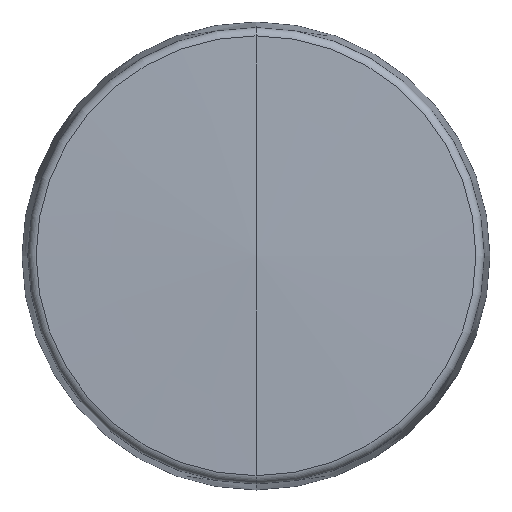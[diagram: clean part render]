
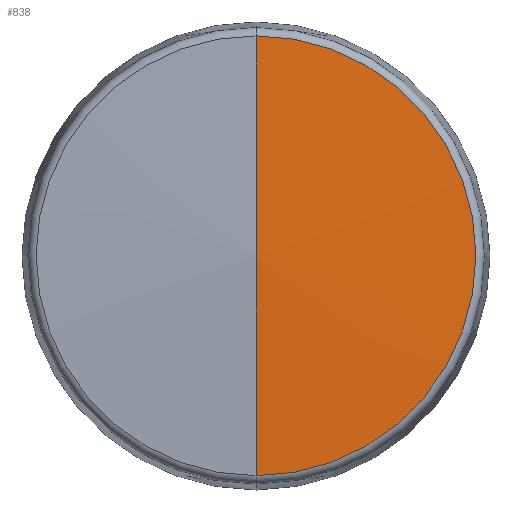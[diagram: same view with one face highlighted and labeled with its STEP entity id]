
A CAD part, top view. The second image highlights one B-rep face of the part: STEP entity #838.
In plain terms, the highlighted conical face has half-angle 88.476 degrees and reference radius 37589.9 mm.
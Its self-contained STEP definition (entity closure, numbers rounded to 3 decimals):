
#57 = CONICAL_SURFACE ( 'NONE', #643, 37589.892, 1.544 ) ;
#143 = CARTESIAN_POINT ( 'NONE',  ( 40., 40., 41.5 ) ) ;
#185 = CARTESIAN_POINT ( 'NONE',  ( 40., 77.59, 40.5 ) ) ;
#198 = VECTOR ( 'NONE', #221, 1000. ) ;
#221 = DIRECTION ( 'NONE',  ( 0., -1., -0.027 ) ) ;
#268 = VERTEX_POINT ( 'NONE', #559 ) ;
#296 = LINE ( 'NONE', #304, #198 ) ;
#304 = CARTESIAN_POINT ( 'NONE',  ( 40., 40., 41.5 ) ) ;
#326 = DIRECTION ( 'NONE',  ( 0., 0., -1. ) ) ;
#341 = EDGE_CURVE ( 'NONE', #268, #629, #296, .T. ) ;
#425 = EDGE_CURVE ( 'NONE', #846, #629, #529, .T. ) ;
#451 = EDGE_LOOP ( 'NONE', ( #912, #634, #882 ) ) ;
#529 = CIRCLE ( 'NONE', #655, 37.59 ) ;
#559 = CARTESIAN_POINT ( 'NONE',  ( 40., 40., 41.5 ) ) ;
#571 = FACE_OUTER_BOUND ( 'NONE', #451, .T. ) ;
#582 = VECTOR ( 'NONE', #727, 1000. ) ;
#613 = DIRECTION ( 'NONE',  ( 0., 1., 0. ) ) ;
#629 = VERTEX_POINT ( 'NONE', #738 ) ;
#634 = ORIENTED_EDGE ( 'NONE', *, *, #341, .T. ) ;
#643 = AXIS2_PLACEMENT_3D ( 'NONE', #899, #917, #834 ) ;
#651 = EDGE_CURVE ( 'NONE', #268, #846, #874, .T. ) ;
#655 = AXIS2_PLACEMENT_3D ( 'NONE', #691, #326, #613 ) ;
#691 = CARTESIAN_POINT ( 'NONE',  ( 40., 40., 40.5 ) ) ;
#727 = DIRECTION ( 'NONE',  ( 0., 1., -0.027 ) ) ;
#738 = CARTESIAN_POINT ( 'NONE',  ( 40., 2.41, 40.5 ) ) ;
#834 = DIRECTION ( 'NONE',  ( 0., 1., 0. ) ) ;
#838 = ADVANCED_FACE ( 'NONE', ( #571 ), #57, .T. ) ;
#846 = VERTEX_POINT ( 'NONE', #185 ) ;
#874 = LINE ( 'NONE', #143, #582 ) ;
#882 = ORIENTED_EDGE ( 'NONE', *, *, #425, .F. ) ;
#899 = CARTESIAN_POINT ( 'NONE',  ( 40., 40., -958.5 ) ) ;
#912 = ORIENTED_EDGE ( 'NONE', *, *, #651, .F. ) ;
#917 = DIRECTION ( 'NONE',  ( 0., 0., -1. ) ) ;
